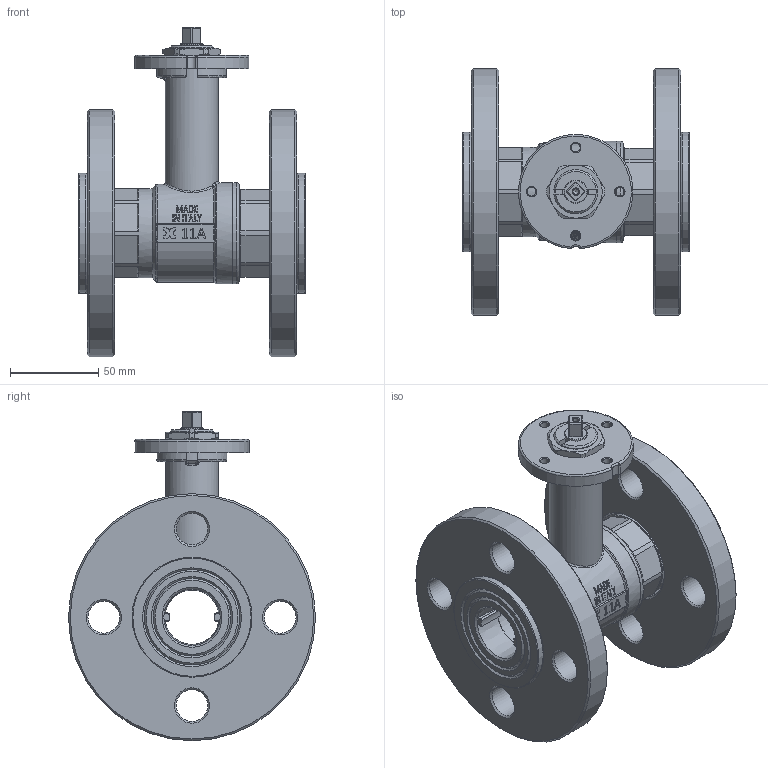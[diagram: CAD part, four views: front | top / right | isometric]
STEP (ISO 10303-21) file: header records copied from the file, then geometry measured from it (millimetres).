
FILE_DESCRIPTION(/* description */ ('Sfera 1"1/4'),/* implementation_level */ '2;1');
FILE_NAME(/* name */ '\\dcidrosfer01\user$\ut4\Desktop\TICOM 95 PME STP\Art.95 PME DN32.stp',/* time_stamp */ '2015-07-21T14:46:48+02:00',/* author */ ('ut4'),/* organization */ (''),/* preprocessor_version */ 'ST-DEVELOPER v15.6',/* originating_system */ 'Autodesk Inventor 2015',/* authorisation */ '');
FILE_SCHEMA (('AUTOMOTIVE_DESIGN { 1 0 10303 214 3 1 1 }'));
Length unit declared in the file: millimetre
Products named in the file (17): sfera 114; O-ring 37.77 x 2.62; Dischetto portamotore SM Ø25 lav.; Dado blocca piastra SM3; Anello antigrip. perno mot. Ø20; Boccola antigrip. perno mot. Ø20; O-ring 15.08 x 2.62; Sede 114; Manicotto femmina 114 mot.; Corpo prolunga mot. 114; Perno mot. prolunga corto 20 q8; Tubetto prolunga mot.114-112; Ghiera ferma asta mot. 25 prolunga; Bocchettone DN32; O-ring 41.00 x 1.78; Flangia PN16 DN32; Valvola a sfera mot. 114 art.95 PM SM
Assembly tree (23 placements, depth 2):
  Valvola a sfera mot. 114 art.95 PM SM
    sfera 114
    O-ring 37.77 x 2.62  x2
    Dischetto portamotore SM Ø25 lav.
    Dado blocca piastra SM3
    Anello antigrip. perno mot. Ø20
    Boccola antigrip. perno mot. Ø20  x2
    O-ring 15.08 x 2.62  x2
    Sede 114  x2
    Manicotto femmina 114 mot.
    Corpo prolunga mot. 114
    Perno mot. prolunga corto 20 q8
    Tubetto prolunga mot.114-112
    Ghiera ferma asta mot. 25 prolunga
    Bocchettone DN32  x2
    O-ring 41.00 x 1.78  x2
    Flangia PN16 DN32  x2
Bounding box: 128.6 x 140 x 186.75 mm (x, y, z)
Volume: 611479.6 mm3; surface area: 204702 mm2
Topology: 23 solids, 23 shells, 945 faces, 2358 edges, 1486 vertices
Faces by surface type: plane 386, cylinder 224, bspline 114, cone 105, torus 93, sphere 23
Full cylindrical faces by diameter (mm): 3.242 x1, 4.917 x4, 13 x1, 13.2 x3, 14.8 x2, 15 x2, 16 x1, 16.1 x2, 16.3 x2, 18 x8, 19.9 x3, 20 x4, 20.1 x1, 22 x1, 23 x1, 23.3 x1, 23.5 x2, 25 x2, 30 x1, 32 x7, 35 x2, 37.6 x2, 38.95 x1, 39 x1, 41.91 x2, 43 x4, 46 x2, 49 x2, 50.5 x2, 52 x3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
Entity records: 29412 total; most frequent: CARTESIAN_POINT 9031, ORIENTED_EDGE 4006, DIRECTION 3842, EDGE_CURVE 2003, AXIS2_PLACEMENT_3D 1466, VERTEX_POINT 1345, EDGE_LOOP 1090, LINE 910
